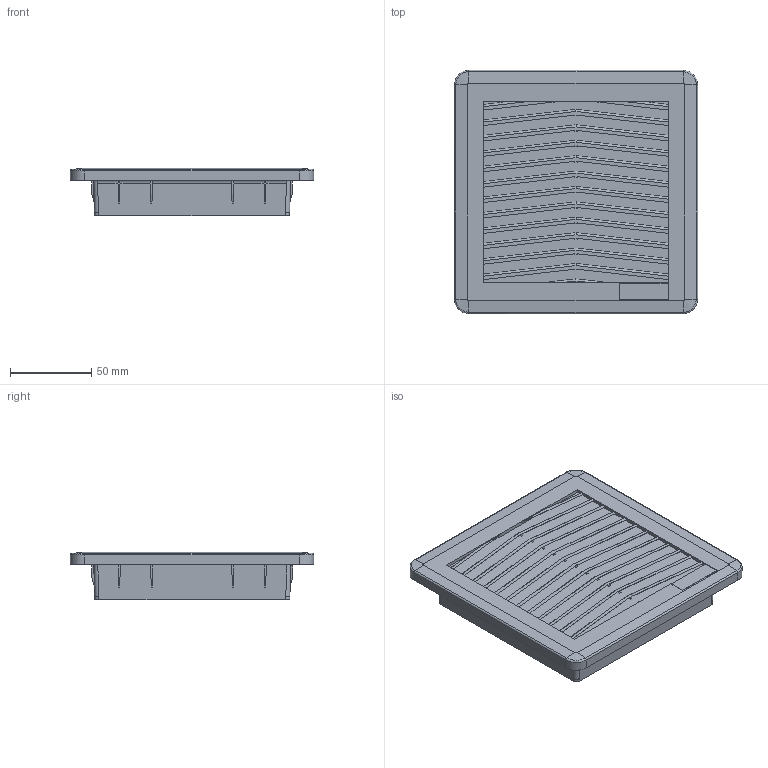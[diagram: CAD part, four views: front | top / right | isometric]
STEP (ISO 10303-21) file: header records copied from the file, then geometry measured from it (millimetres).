
FILE_DESCRIPTION(/* description */ (''),/* implementation_level */ '2;1');
FILE_NAME(/* name */ 'FF12y-124',/* time_stamp */ '2025-10-30T12:42:06+01:00',/* author */ (''),/* organization */ (''),/* preprocessor_version */ 'ST-DEVELOPER v16.5',/* originating_system */ 'Rhino 7.38',/* authorisation */ '');
FILE_SCHEMA (('AUTOMOTIVE_DESIGN'));
Length unit declared in the file: millimetre
Products named in the file (6): Document; FF12y; DT-04082DSI_mostrina semplificata; DT-00350DSI_Base 124 semplificata; DT-00200DSI_Coperchio semplificato; Blocco 01
Assembly tree (5 placements, depth 4):
  Document
    FF12y
      DT-04082DSI_mostrina semplificata
      DT-00350DSI_Base 124 semplificata
      DT-00200DSI_Coperchio semplificato
        Blocco 01
Bounding box: 150 x 150 x 29.2 mm (x, y, z)
Volume: 144681.4 mm3; surface area: 111685 mm2
Topology: 4 solids, 5 shells, 292 faces, 821 edges, 540 vertices
Faces by surface type: plane 239, bspline 27, cylinder 26
Entity records: 9808 total; most frequent: CARTESIAN_POINT 4011, ORIENTED_EDGE 1638, EDGE_CURVE 821, B_SPLINE_CURVE_WITH_KNOTS 747, VERTEX_POINT 540, EDGE_LOOP 294, DIRECTION 293, ADVANCED_FACE 292
